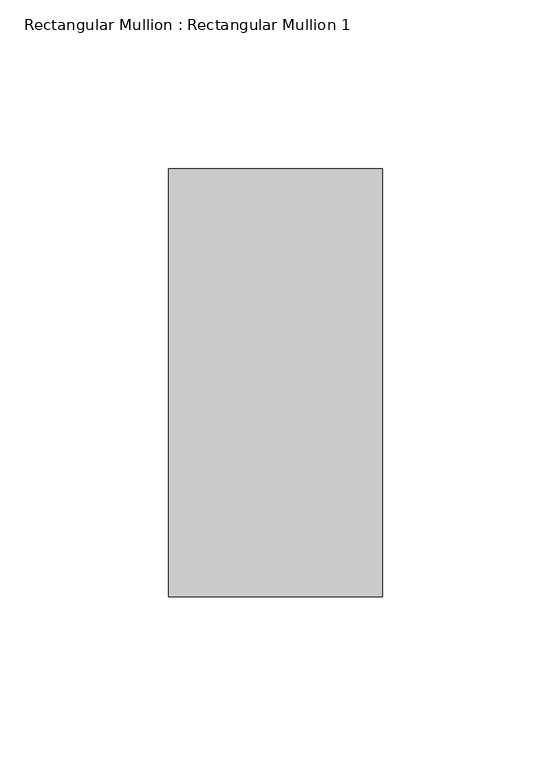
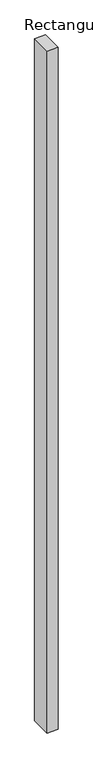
"""IFC4 building model written with IfcOpenShell, lengths in millimetres: member geometry, Rectangular Mullion : Rectangular Mullion 1."""

from ifc_helpers import new_model, si_unit, frame, origin, place, context, project, spatial, polyline, outline, extrude, source, transform, mapped, element, save


def rectangular_mullion_rectangular_mullion_1_7ddebdeb(model_context):
    return source(origin(), model_context, "Body", "SweptSolid", [
        extrude(outline(polyline([(31.75, 63.5), (31.75, -63.5), (-31.75, -63.5), (-31.75, 63.5), (31.75, 63.5)])), frame((0.0, 0.0, -4200.0), z_axis=(0.0, 0.0, 1.0), x_axis=(1.0, 0.0, 0.0)), (0.0, 0.0, 1.0), 4200.0),
    ])


if __name__ == "__main__":
    model = new_model("IFC4")
    model_context = context("Model", 3, world=origin())
    ifc_project = project(units=[si_unit("LENGTHUNIT", "METRE", prefix="MILLI")], contexts=[model_context])
    site = spatial("IfcSite", under=ifc_project)
    building = spatial("IfcBuilding", under=site)
    placement = place(None, origin())
    rectangular_mullion_rectangular_mullion_1_shape = rectangular_mullion_rectangular_mullion_1_7ddebdeb(model_context)
    element("IfcMember", 1, ObjectType="Rectangular Mullion : Rectangular Mullion 1", at=placement, inside=building, context=model_context, shape_type="MappedRepresentation", body=[
        mapped(rectangular_mullion_rectangular_mullion_1_shape, transform((0.0, 0.0, 0.0), x_axis=(1.0, 0.0, 0.0), y_axis=(0.0, 1.0, 0.0), z_axis=(0.0, 0.0, 1.0))),
    ])
    save(model, "model.ifc")
